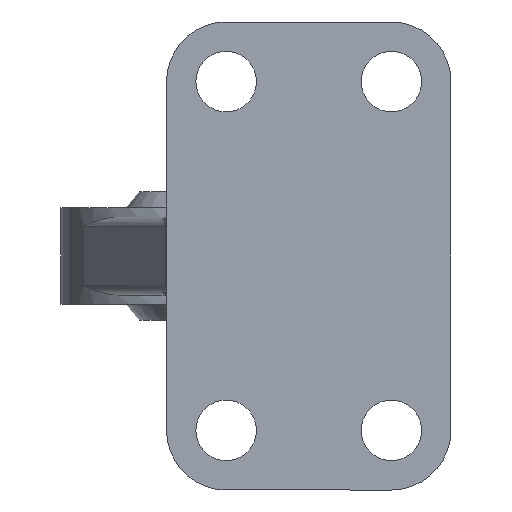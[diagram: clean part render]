
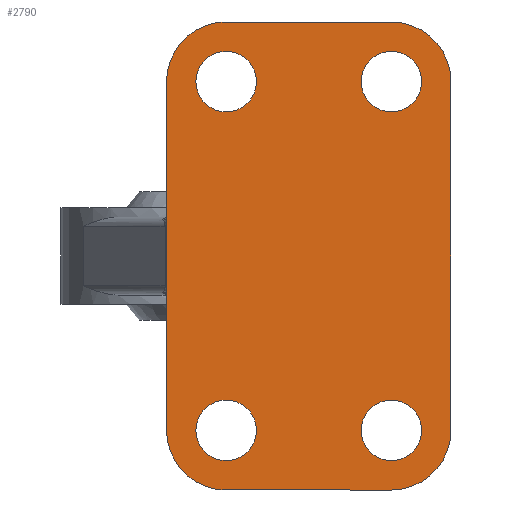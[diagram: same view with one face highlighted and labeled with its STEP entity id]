
A CAD part, front view. The second image highlights one B-rep face of the part: STEP entity #2790.
In plain terms, the highlighted planar face has unit normal (0, -1, 0).
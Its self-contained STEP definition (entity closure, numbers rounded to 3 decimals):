
#4 = DIRECTION ( 'NONE',  ( 0., 0., 1. ) ) ;
#93 = CARTESIAN_POINT ( 'NONE',  ( -15.5, 0., 25.5 ) ) ;
#97 = AXIS2_PLACEMENT_3D ( 'NONE', #462, #2395, #251 ) ;
#107 = DIRECTION ( 'NONE',  ( 0., 0., 1. ) ) ;
#157 = CARTESIAN_POINT ( 'NONE',  ( 15.5, 0., 25.5 ) ) ;
#167 = ORIENTED_EDGE ( 'NONE', *, *, #1051, .F. ) ;
#170 = DIRECTION ( 'NONE',  ( 0., -1., 0. ) ) ;
#241 = DIRECTION ( 'NONE',  ( 0., 0., -1. ) ) ;
#251 = DIRECTION ( 'NONE',  ( 0., 0., 1. ) ) ;
#254 = CARTESIAN_POINT ( 'NONE',  ( 0., 0., 0. ) ) ;
#281 = DIRECTION ( 'NONE',  ( 0., 0., 1. ) ) ;
#301 = ORIENTED_EDGE ( 'NONE', *, *, #1908, .F. ) ;
#317 = DIRECTION ( 'NONE',  ( 0., 0., 1. ) ) ;
#322 = AXIS2_PLACEMENT_3D ( 'NONE', #2642, #1367, #2669 ) ;
#324 = CARTESIAN_POINT ( 'NONE',  ( 15.5, 0., -25.5 ) ) ;
#332 = CARTESIAN_POINT ( 'NONE',  ( 9., 0., 25.5 ) ) ;
#391 = AXIS2_PLACEMENT_3D ( 'NONE', #1094, #1542, #668 ) ;
#399 = CARTESIAN_POINT ( 'NONE',  ( 9., 0., -15.7 ) ) ;
#412 = CIRCLE ( 'NONE', #640, 6.5 ) ;
#415 = CIRCLE ( 'NONE', #2087, 3.3 ) ;
#435 = CARTESIAN_POINT ( 'NONE',  ( -9., 0., -15.7 ) ) ;
#449 = FACE_OUTER_BOUND ( 'NONE', #703, .T. ) ;
#450 = AXIS2_PLACEMENT_3D ( 'NONE', #1709, #2583, #1284 ) ;
#451 = EDGE_CURVE ( 'NONE', #1332, #705, #2487, .T. ) ;
#462 = CARTESIAN_POINT ( 'NONE',  ( -9., 0., -19. ) ) ;
#468 = VERTEX_POINT ( 'NONE', #2730 ) ;
#498 = CIRCLE ( 'NONE', #2724, 3.3 ) ;
#502 = CIRCLE ( 'NONE', #2456, 3.3 ) ;
#506 = LINE ( 'NONE', #2180, #1886 ) ;
#549 = ORIENTED_EDGE ( 'NONE', *, *, #2189, .F. ) ;
#598 = EDGE_LOOP ( 'NONE', ( #167, #2331 ) ) ;
#601 = VERTEX_POINT ( 'NONE', #435 ) ;
#611 = CARTESIAN_POINT ( 'NONE',  ( 9., 0., -22.3 ) ) ;
#620 = CARTESIAN_POINT ( 'NONE',  ( -9., 0., 19. ) ) ;
#635 = VERTEX_POINT ( 'NONE', #1715 ) ;
#637 = DIRECTION ( 'NONE',  ( 0., 0., 1. ) ) ;
#640 = AXIS2_PLACEMENT_3D ( 'NONE', #1283, #1509, #1029 ) ;
#668 = DIRECTION ( 'NONE',  ( 0., 0., 1. ) ) ;
#669 = EDGE_CURVE ( 'NONE', #635, #2065, #1344, .T. ) ;
#676 = ORIENTED_EDGE ( 'NONE', *, *, #1875, .T. ) ;
#680 = DIRECTION ( 'NONE',  ( 0., 1., 0. ) ) ;
#695 = PLANE ( 'NONE',  #2478 ) ;
#703 = EDGE_LOOP ( 'NONE', ( #1627, #1222, #2473, #1350, #2477, #1320, #2230, #676 ) ) ;
#705 = VERTEX_POINT ( 'NONE', #932 ) ;
#706 = DIRECTION ( 'NONE',  ( 0., 0., 1. ) ) ;
#709 = FACE_BOUND ( 'NONE', #2184, .T. ) ;
#719 = ORIENTED_EDGE ( 'NONE', *, *, #909, .F. ) ;
#768 = EDGE_CURVE ( 'NONE', #635, #1712, #506, .T. ) ;
#817 = LINE ( 'NONE', #157, #949 ) ;
#890 = VECTOR ( 'NONE', #107, 1000. ) ;
#909 = EDGE_CURVE ( 'NONE', #1450, #1919, #2347, .T. ) ;
#932 = CARTESIAN_POINT ( 'NONE',  ( -9., 0., -25.5 ) ) ;
#949 = VECTOR ( 'NONE', #1256, 1000. ) ;
#1029 = DIRECTION ( 'NONE',  ( 0., 0., 1. ) ) ;
#1051 = EDGE_CURVE ( 'NONE', #601, #2648, #1178, .T. ) ;
#1066 = EDGE_CURVE ( 'NONE', #2748, #2436, #502, .T. ) ;
#1080 = DIRECTION ( 'NONE',  ( 0., -1., 0. ) ) ;
#1094 = CARTESIAN_POINT ( 'NONE',  ( -9., 0., 19. ) ) ;
#1114 = CARTESIAN_POINT ( 'NONE',  ( 9., 0., -19. ) ) ;
#1178 = CIRCLE ( 'NONE', #97, 3.3 ) ;
#1183 = AXIS2_PLACEMENT_3D ( 'NONE', #1921, #1300, #637 ) ;
#1222 = ORIENTED_EDGE ( 'NONE', *, *, #669, .T. ) ;
#1243 = CARTESIAN_POINT ( 'NONE',  ( -9., 0., -19. ) ) ;
#1256 = DIRECTION ( 'NONE',  ( 1., 0., 0. ) ) ;
#1283 = CARTESIAN_POINT ( 'NONE',  ( -9., 0., -19. ) ) ;
#1284 = DIRECTION ( 'NONE',  ( 0., 0., 1. ) ) ;
#1294 = CARTESIAN_POINT ( 'NONE',  ( 9., 0., -25.5 ) ) ;
#1300 = DIRECTION ( 'NONE',  ( 0., -1., 0. ) ) ;
#1303 = EDGE_CURVE ( 'NONE', #2777, #705, #412, .T. ) ;
#1312 = CIRCLE ( 'NONE', #450, 3.3 ) ;
#1320 = ORIENTED_EDGE ( 'NONE', *, *, #1303, .T. ) ;
#1322 = CARTESIAN_POINT ( 'NONE',  ( -9., 0., 22.3 ) ) ;
#1332 = VERTEX_POINT ( 'NONE', #1294 ) ;
#1333 = EDGE_CURVE ( 'NONE', #2272, #2065, #817, .T. ) ;
#1344 = CIRCLE ( 'NONE', #1839, 6.5 ) ;
#1350 = ORIENTED_EDGE ( 'NONE', *, *, #2811, .T. ) ;
#1367 = DIRECTION ( 'NONE',  ( 0., -1., 0. ) ) ;
#1392 = CARTESIAN_POINT ( 'NONE',  ( -9., 0., 25.5 ) ) ;
#1446 = ORIENTED_EDGE ( 'NONE', *, *, #2041, .F. ) ;
#1450 = VERTEX_POINT ( 'NONE', #1322 ) ;
#1475 = CARTESIAN_POINT ( 'NONE',  ( -15.5, 0., 19. ) ) ;
#1483 = EDGE_CURVE ( 'NONE', #1919, #1450, #415, .T. ) ;
#1509 = DIRECTION ( 'NONE',  ( 0., -1., 0. ) ) ;
#1515 = CARTESIAN_POINT ( 'NONE',  ( -15.5, 0., -19. ) ) ;
#1542 = DIRECTION ( 'NONE',  ( 0., -1., 0. ) ) ;
#1552 = ORIENTED_EDGE ( 'NONE', *, *, #1066, .F. ) ;
#1574 = ORIENTED_EDGE ( 'NONE', *, *, #1483, .F. ) ;
#1602 = CARTESIAN_POINT ( 'NONE',  ( -9., 0., -22.3 ) ) ;
#1611 = CIRCLE ( 'NONE', #391, 6.5 ) ;
#1627 = ORIENTED_EDGE ( 'NONE', *, *, #768, .F. ) ;
#1709 = CARTESIAN_POINT ( 'NONE',  ( 9., 0., 19. ) ) ;
#1711 = VECTOR ( 'NONE', #2327, 1000. ) ;
#1712 = VERTEX_POINT ( 'NONE', #2499 ) ;
#1715 = CARTESIAN_POINT ( 'NONE',  ( 15.5, 0., 19. ) ) ;
#1761 = DIRECTION ( 'NONE',  ( 0., -1., 0. ) ) ;
#1805 = CARTESIAN_POINT ( 'NONE',  ( -9., 0., 15.7 ) ) ;
#1839 = AXIS2_PLACEMENT_3D ( 'NONE', #2148, #1080, #4 ) ;
#1845 = DIRECTION ( 'NONE',  ( 0., -1., 0. ) ) ;
#1875 = EDGE_CURVE ( 'NONE', #1332, #1712, #2037, .T. ) ;
#1886 = VECTOR ( 'NONE', #241, 1000. ) ;
#1908 = EDGE_CURVE ( 'NONE', #468, #2640, #2782, .T. ) ;
#1919 = VERTEX_POINT ( 'NONE', #1805 ) ;
#1921 = CARTESIAN_POINT ( 'NONE',  ( 9., 0., -19. ) ) ;
#1968 = CARTESIAN_POINT ( 'NONE',  ( -9., 0., 19. ) ) ;
#1974 = DIRECTION ( 'NONE',  ( 0., -1., 0. ) ) ;
#1992 = FACE_BOUND ( 'NONE', #2542, .T. ) ;
#2023 = LINE ( 'NONE', #93, #890 ) ;
#2025 = EDGE_CURVE ( 'NONE', #2648, #601, #498, .T. ) ;
#2037 = CIRCLE ( 'NONE', #1183, 6.5 ) ;
#2041 = EDGE_CURVE ( 'NONE', #2436, #2748, #2496, .T. ) ;
#2065 = VERTEX_POINT ( 'NONE', #332 ) ;
#2087 = AXIS2_PLACEMENT_3D ( 'NONE', #1968, #1761, #2635 ) ;
#2148 = CARTESIAN_POINT ( 'NONE',  ( 9., 0., 19. ) ) ;
#2180 = CARTESIAN_POINT ( 'NONE',  ( 15.5, 0., 25.5 ) ) ;
#2184 = EDGE_LOOP ( 'NONE', ( #719, #1574 ) ) ;
#2189 = EDGE_CURVE ( 'NONE', #2640, #468, #1312, .T. ) ;
#2225 = FACE_BOUND ( 'NONE', #2374, .T. ) ;
#2230 = ORIENTED_EDGE ( 'NONE', *, *, #451, .F. ) ;
#2272 = VERTEX_POINT ( 'NONE', #1392 ) ;
#2295 = EDGE_CURVE ( 'NONE', #2777, #2696, #2023, .T. ) ;
#2307 = CARTESIAN_POINT ( 'NONE',  ( 9., 0., -19. ) ) ;
#2327 = DIRECTION ( 'NONE',  ( -1., 0., 0. ) ) ;
#2331 = ORIENTED_EDGE ( 'NONE', *, *, #2025, .F. ) ;
#2337 = DIRECTION ( 'NONE',  ( 0., -1., 0. ) ) ;
#2347 = CIRCLE ( 'NONE', #2712, 3.3 ) ;
#2374 = EDGE_LOOP ( 'NONE', ( #301, #549 ) ) ;
#2395 = DIRECTION ( 'NONE',  ( 0., -1., 0. ) ) ;
#2436 = VERTEX_POINT ( 'NONE', #611 ) ;
#2456 = AXIS2_PLACEMENT_3D ( 'NONE', #1114, #1974, #706 ) ;
#2473 = ORIENTED_EDGE ( 'NONE', *, *, #1333, .F. ) ;
#2477 = ORIENTED_EDGE ( 'NONE', *, *, #2295, .F. ) ;
#2478 = AXIS2_PLACEMENT_3D ( 'NONE', #254, #680, #281 ) ;
#2487 = LINE ( 'NONE', #324, #1711 ) ;
#2496 = CIRCLE ( 'NONE', #2773, 3.3 ) ;
#2499 = CARTESIAN_POINT ( 'NONE',  ( 15.5, 0., -19. ) ) ;
#2503 = CARTESIAN_POINT ( 'NONE',  ( 9., 0., 15.7 ) ) ;
#2542 = EDGE_LOOP ( 'NONE', ( #1552, #1446 ) ) ;
#2543 = DIRECTION ( 'NONE',  ( 0., 0., 1. ) ) ;
#2583 = DIRECTION ( 'NONE',  ( 0., -1., 0. ) ) ;
#2635 = DIRECTION ( 'NONE',  ( 0., 0., 1. ) ) ;
#2640 = VERTEX_POINT ( 'NONE', #2503 ) ;
#2642 = CARTESIAN_POINT ( 'NONE',  ( 9., 0., 19. ) ) ;
#2644 = FACE_BOUND ( 'NONE', #598, .T. ) ;
#2648 = VERTEX_POINT ( 'NONE', #1602 ) ;
#2669 = DIRECTION ( 'NONE',  ( 0., 0., 1. ) ) ;
#2696 = VERTEX_POINT ( 'NONE', #1475 ) ;
#2712 = AXIS2_PLACEMENT_3D ( 'NONE', #620, #2337, #2543 ) ;
#2724 = AXIS2_PLACEMENT_3D ( 'NONE', #1243, #1845, #317 ) ;
#2730 = CARTESIAN_POINT ( 'NONE',  ( 9., 0., 22.3 ) ) ;
#2739 = DIRECTION ( 'NONE',  ( 0., 0., 1. ) ) ;
#2748 = VERTEX_POINT ( 'NONE', #399 ) ;
#2773 = AXIS2_PLACEMENT_3D ( 'NONE', #2307, #170, #2739 ) ;
#2777 = VERTEX_POINT ( 'NONE', #1515 ) ;
#2782 = CIRCLE ( 'NONE', #322, 3.3 ) ;
#2790 = ADVANCED_FACE ( 'NONE', ( #2644, #2225, #709, #1992, #449 ), #695, .F. ) ;
#2811 = EDGE_CURVE ( 'NONE', #2272, #2696, #1611, .T. ) ;
